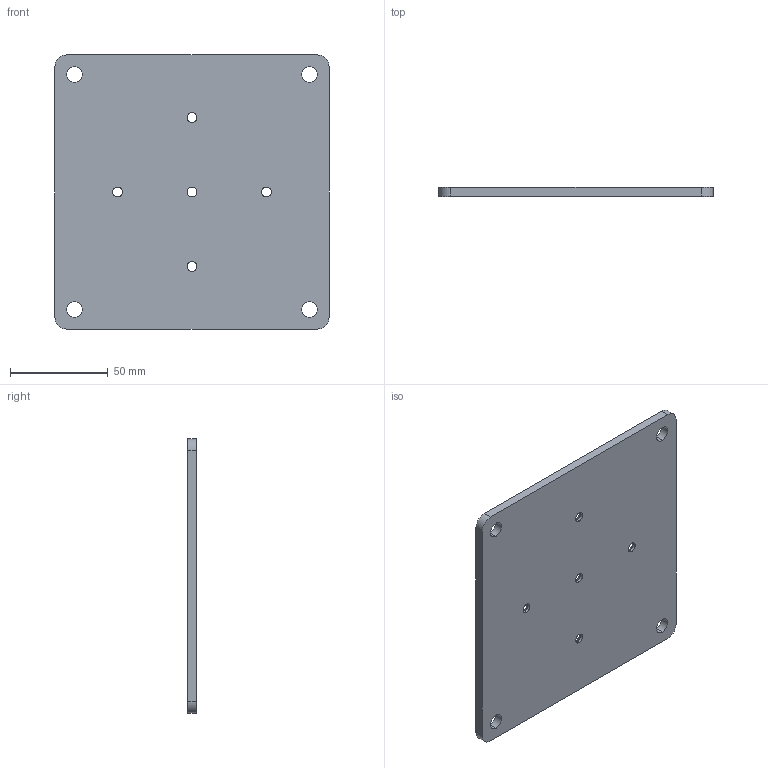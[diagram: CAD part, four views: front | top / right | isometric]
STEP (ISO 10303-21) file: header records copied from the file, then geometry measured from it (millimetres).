
FILE_DESCRIPTION (( 'STEP AP214' ), '1' );
FILE_NAME ('TablePlate140A.STEP', '2022-08-19T00:38:52', ( '' ), ( '' ), 'SwSTEP 2.0', 'SolidWorks 2021', '' );
FILE_SCHEMA (( 'AUTOMOTIVE_DESIGN' ));
Length unit declared in the file: millimetre
Products named in the file (1): TablePlate140A
Bounding box: 140 x 4.5 x 140 mm (x, y, z)
Volume: 86219.6 mm3; surface area: 41739.7 mm2
Topology: 1 solids, 1 shells, 38 faces, 98 edges, 62 vertices
Faces by surface type: cylinder 22, cone 10, plane 6
Entity records: 1246 total; most frequent: DIRECTION 230, CARTESIAN_POINT 199, ORIENTED_EDGE 196, EDGE_CURVE 98, AXIS2_PLACEMENT_3D 93, VERTEX_POINT 62, EDGE_LOOP 56, CIRCLE 54
